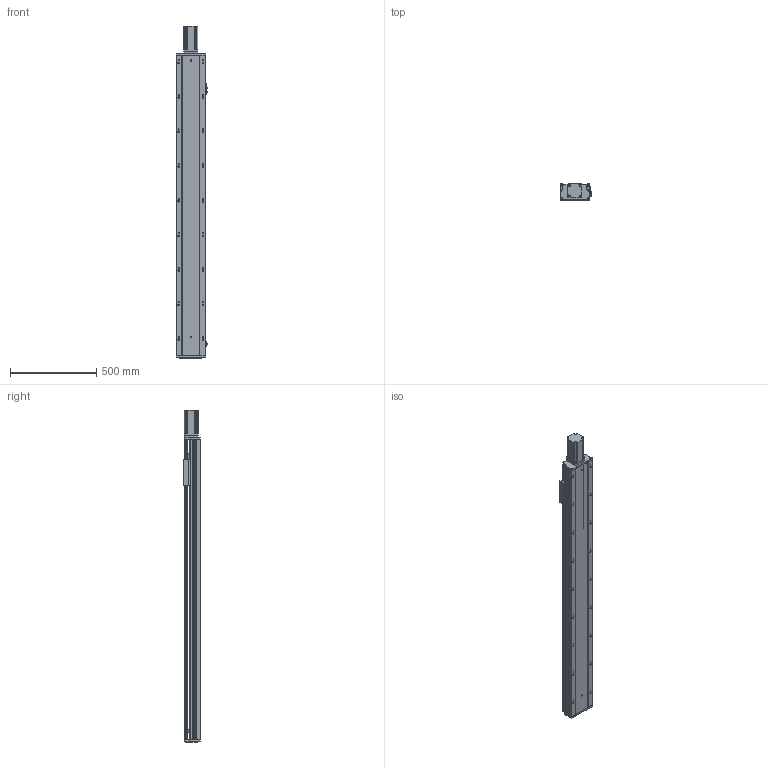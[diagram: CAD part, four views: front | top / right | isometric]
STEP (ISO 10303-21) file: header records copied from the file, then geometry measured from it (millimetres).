
FILE_DESCRIPTION (( 'STEP AP203' ), '1' );
FILE_NAME ('RY170-L2510-1200-MK.SLDASM_1400.step', '2021-02-20T05:12:16', ( '盈信电脑' ), ( '东莞市道滘镇水果街19号' ), 'SwSTEP 2.0', 'SolidWorks 2012', '' );
FILE_SCHEMA (( 'CONFIG_CONTROL_DESIGN' ));
Length unit declared in the file: millimetre
Products named in the file (12): RY170-L2510-1200-MK.SLDASM_1400; 滅袉蝶18-28; 750W萇儂梓袧蛌諉啣; 滅袉蝶18-15; 侂狟750W萇儂ㄗ80遺ㄘ; RY170外置感应片(200共用）; RY170ヶ醱裔啣; 覜茼ん672; RY170綴裔啣; RY170臏賑輸25佪裝蹟譫; RY170-1200倰第裔啣-MK_1400; RY170-1200倰第菁釱-MK_1400
Assembly tree (13 placements, depth 2):
  RY170-L2510-1200-MK.SLDASM_1400
    RY170-1200倰第菁釱-MK_1400
    RY170-1200倰第裔啣-MK_1400
    RY170臏賑輸25佪裝蹟譫
    RY170綴裔啣
    覜茼ん672  x3
    RY170外置感应片(200共用）
    RY170ヶ醱裔啣
    滅袉蝶18-28
    滅袉蝶18-15
    750W萇儂梓袧蛌諉啣
    侂狟750W萇儂ㄗ80遺ㄘ
Bounding box: 183.7 x 97 x 1921 mm (x, y, z)
Volume: 8922034.6 mm3; surface area: 2847848.9 mm2
Topology: 13 solids, 13 shells, 1708 faces, 5027 edges, 3184 vertices
Faces by surface type: cylinder 790, plane 711, cone 203, bspline 4
Entity records: 54570 total; most frequent: CARTESIAN_POINT 12542, ORIENTED_EDGE 8742, DIRECTION 8378, EDGE_CURVE 4371, AXIS2_PLACEMENT_3D 2968, VERTEX_POINT 2864, VECTOR 2442, LINE 2442
